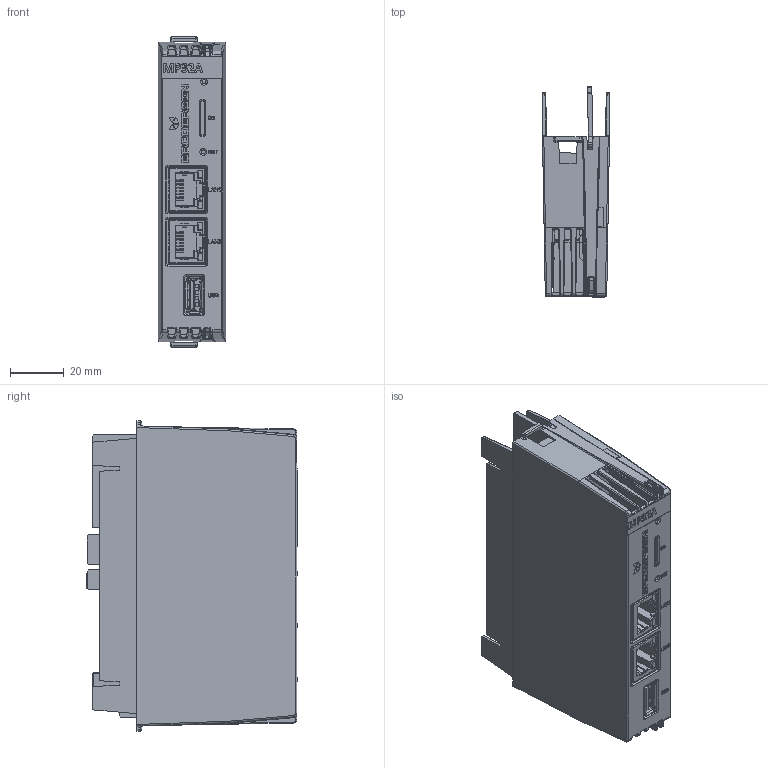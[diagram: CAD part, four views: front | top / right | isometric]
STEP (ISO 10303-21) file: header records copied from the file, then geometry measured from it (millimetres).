
FILE_DESCRIPTION(/* description */ (''),/* implementation_level */ '2;1');
FILE_NAME(/* name */ 'C:\Users\Public\Documents\Autodesk\Inventor 2023\MP32A_Simplified.stp',/* time_stamp */ '2024-10-21T12:28:59+02:00',/* author */ ('shoma'),/* organization */ (''),/* preprocessor_version */ 'ST-DEVELOPER v19',/* originating_system */ 'Autodesk Inventor 2023',/* authorisation */ '');
FILE_SCHEMA (('AUTOMOTIVE_DESIGN { 1 0 10303 214 3 1 1 }'));
Products named in the file (1): MP32A_Simplified
Bounding box: 24.95 x 78.17 x 115.5 mm (x, y, z)
Volume: 108026.4 mm3; surface area: 55668.3 mm2
Topology: 3 solids, 3 shells, 3954 faces, 11020 edges, 7085 vertices
Faces by surface type: plane 2815, cylinder 794, bspline 293, sphere 44, torus 6, cone 2
Full cylindrical faces by diameter (mm): 0.3 x3, 0.75 x2, 0.8 x7, 0.9 x20, 1 x4, 1.02 x8, 1.3 x4, 1.7 x4, 2.5 x1, 3 x2, 3.2 x4
Entity records: 137452 total; most frequent: CARTESIAN_POINT 32050, ORIENTED_EDGE 21944, DIRECTION 19826, EDGE_CURVE 10972, LINE 8730, VECTOR 8730, VERTEX_POINT 7085, AXIS2_PLACEMENT_3D 5548
